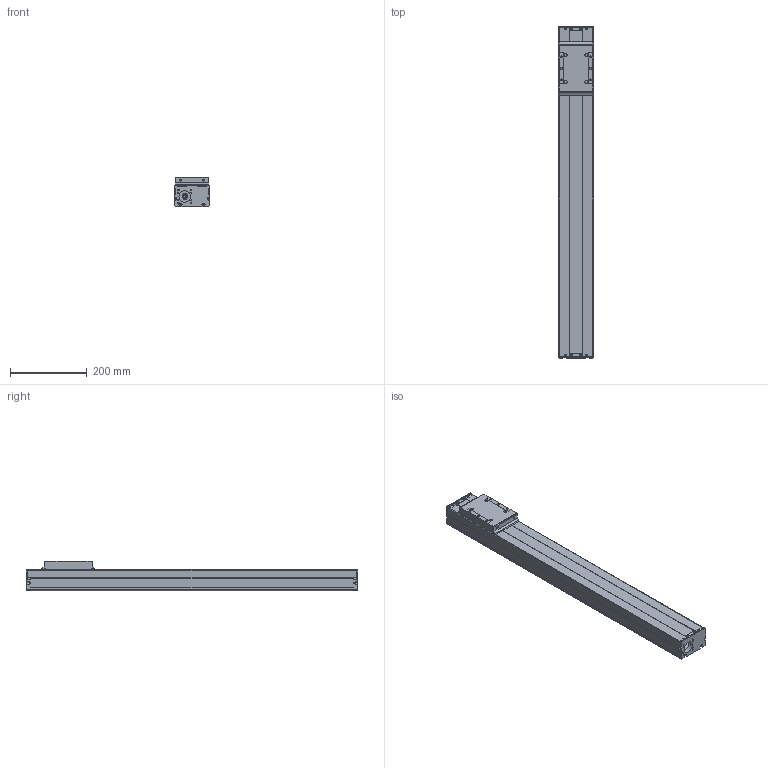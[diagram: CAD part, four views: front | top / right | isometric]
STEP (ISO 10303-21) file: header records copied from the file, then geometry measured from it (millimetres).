
FILE_DESCRIPTION (( 'STEP AP214' ), '1' );
FILE_NAME ('HZMotion TKS90-600A1F0.STEP', '2021-09-15T10:32:24', ( 'AutoBVT' ), ( 'Microsoft' ), 'SwSTEP 2.0', 'SolidWorks 2020', '' );
FILE_SCHEMA (( 'AUTOMOTIVE_DESIGN' ));
Length unit declared in the file: millimetre
Products named in the file (3): 600-2; HZMotion TKS90-600A1F0; A1F0-600-1
Assembly tree (2 placements, depth 2):
  HZMotion TKS90-600A1F0
    600-2
    A1F0-600-1
Bounding box: 90 x 864 x 78 mm (x, y, z)
Volume: 1467176.3 mm3; surface area: 581030.4 mm2
Topology: 2 solids, 6 shells, 525 faces, 1373 edges, 886 vertices
Faces by surface type: plane 270, cylinder 219, cone 32, torus 4
Entity records: 16251 total; most frequent: DIRECTION 2883, CARTESIAN_POINT 2765, ORIENTED_EDGE 2698, EDGE_CURVE 1349, AXIS2_PLACEMENT_3D 1004, VERTEX_POINT 886, VECTOR 875, LINE 875
